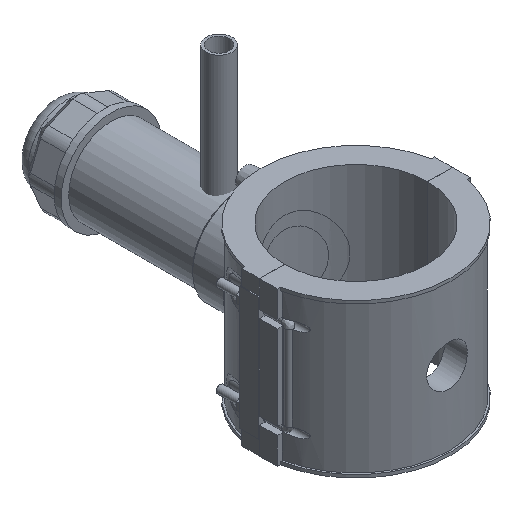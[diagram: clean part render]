
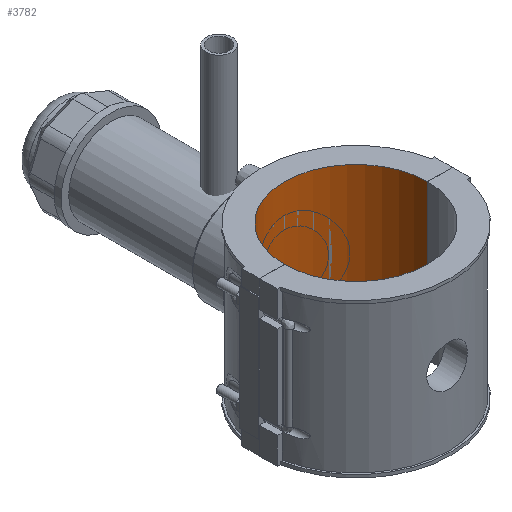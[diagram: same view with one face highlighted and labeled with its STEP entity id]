
A CAD part, isometric view. The second image highlights one B-rep face of the part: STEP entity #3782.
In plain terms, the highlighted cylindrical face has radius 55 mm (diameter 110 mm), a partial arc.
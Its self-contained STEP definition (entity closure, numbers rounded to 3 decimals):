
#279=CIRCLE('',#4092,55.);
#280=CIRCLE('',#4094,55.);
#487=FACE_OUTER_BOUND('',#725,.T.);
#725=EDGE_LOOP('',(#3142,#3143,#3144,#3145));
#1005=LINE('',#7004,#1322);
#1039=LINE('',#7318,#1356);
#1322=VECTOR('',#4709,10.);
#1356=VECTOR('',#4841,10.);
#1753=VERTEX_POINT('',#7001);
#1754=VERTEX_POINT('',#7003);
#1792=VERTEX_POINT('',#7315);
#1793=VERTEX_POINT('',#7317);
#2202=EDGE_CURVE('',#1754,#1753,#1005,.T.);
#2267=EDGE_CURVE('',#1793,#1792,#1039,.T.);
#2270=EDGE_CURVE('',#1754,#1792,#279,.T.);
#2271=EDGE_CURVE('',#1793,#1753,#280,.T.);
#3142=ORIENTED_EDGE('',*,*,#2267,.T.);
#3143=ORIENTED_EDGE('',*,*,#2270,.F.);
#3144=ORIENTED_EDGE('',*,*,#2202,.T.);
#3145=ORIENTED_EDGE('',*,*,#2271,.F.);
#3639=CYLINDRICAL_SURFACE('',#4095,55.);
#3782=ADVANCED_FACE('',(#487),#3639,.F.);
#4092=AXIS2_PLACEMENT_3D('',#7323,#4846,#4847);
#4094=AXIS2_PLACEMENT_3D('',#7325,#4850,#4851);
#4095=AXIS2_PLACEMENT_3D('',#7327,#4853,#4854);
#4709=DIRECTION('',(0.,0.,-1.));
#4841=DIRECTION('',(0.,0.,1.));
#4846=DIRECTION('center_axis',(0.,0.,-1.));
#4847=DIRECTION('ref_axis',(-1.,0.,0.));
#4850=DIRECTION('center_axis',(0.,0.,1.));
#4851=DIRECTION('ref_axis',(-1.,0.,0.));
#4853=DIRECTION('center_axis',(0.,0.,1.));
#4854=DIRECTION('ref_axis',(-1.,0.,0.));
#7001=CARTESIAN_POINT('',(-55.,0.05,-59.));
#7003=CARTESIAN_POINT('',(-55.,0.05,59.));
#7004=CARTESIAN_POINT('',(-55.,0.05,0.));
#7315=CARTESIAN_POINT('',(55.,0.05,59.));
#7317=CARTESIAN_POINT('',(55.,0.05,-59.));
#7318=CARTESIAN_POINT('',(55.,0.05,0.));
#7323=CARTESIAN_POINT('Origin',(0.,0.,59.));
#7325=CARTESIAN_POINT('Origin',(0.,0.,-59.));
#7327=CARTESIAN_POINT('Origin',(0.,0.,0.));
